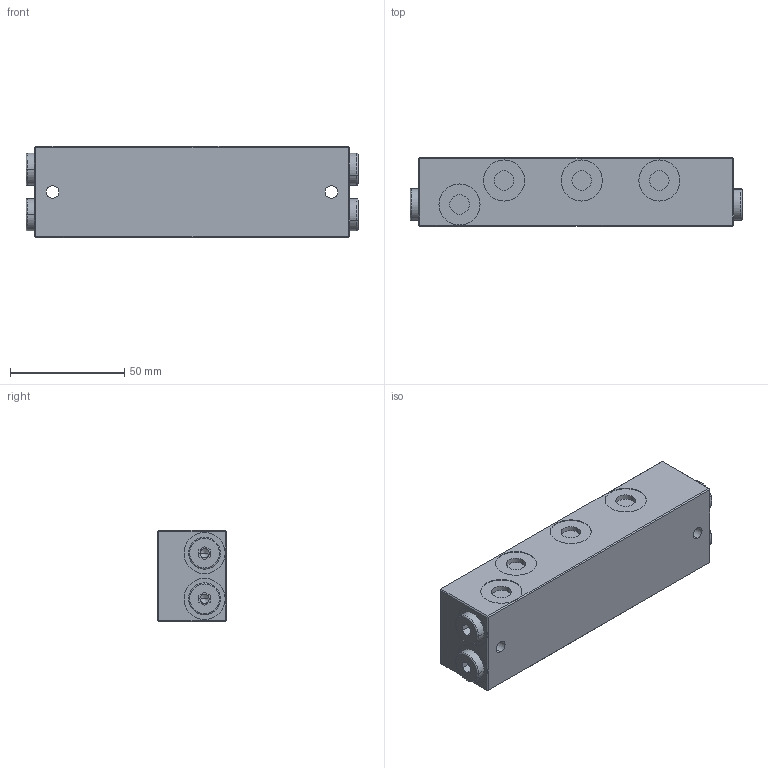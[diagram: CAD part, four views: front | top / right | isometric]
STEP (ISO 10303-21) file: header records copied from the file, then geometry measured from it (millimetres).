
FILE_DESCRIPTION (( 'STEP AP214' ), '1' );
FILE_NAME ('B3_3.STEP', '2017-05-01T13:23:15', ( '' ), ( '' ), 'SwSTEP 2.0', 'SolidWorks 2016', '' );
FILE_SCHEMA (( 'AUTOMOTIVE_DESIGN' ));
Length unit declared in the file: millimetre
Products named in the file (1): B3_3
Bounding box: 145.4 x 30 x 40 mm (x, y, z)
Volume: 163632.8 mm3; surface area: 26313.2 mm2
Topology: 5 solids, 9 shells, 277 faces, 590 edges, 378 vertices
Faces by surface type: cylinder 134, plane 119, cone 16, torus 8
Entity records: 10336 total; most frequent: DIRECTION 1460, CARTESIAN_POINT 1246, ORIENTED_EDGE 1180, AXIS2_PLACEMENT_3D 592, EDGE_CURVE 590, VERTEX_POINT 378, EDGE_LOOP 344, CIRCLE 314
